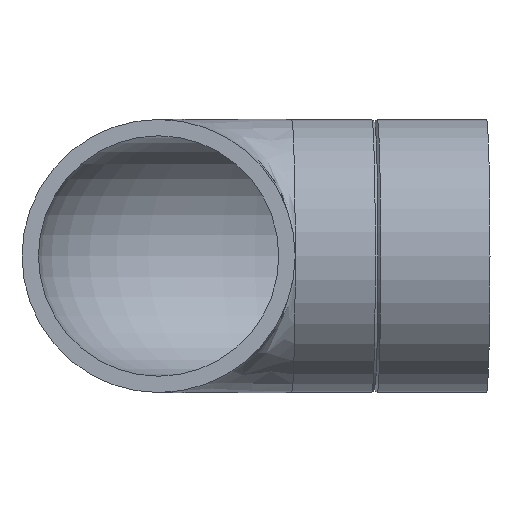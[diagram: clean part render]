
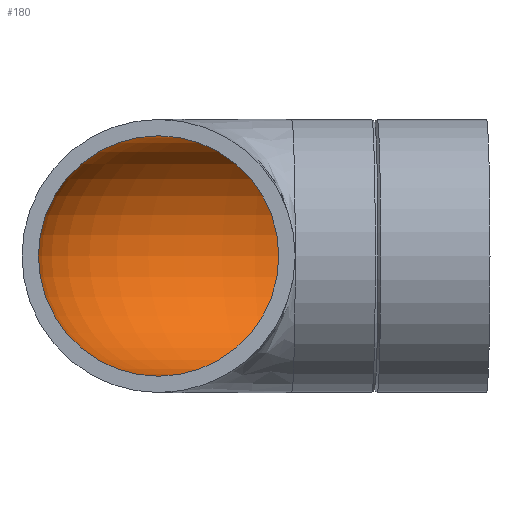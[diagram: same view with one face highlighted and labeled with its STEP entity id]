
A CAD part, front view. The second image highlights one B-rep face of the part: STEP entity #180.
In plain terms, the highlighted toroidal (fillet/blend) face has major radius 25 mm and minor radius 22 mm.
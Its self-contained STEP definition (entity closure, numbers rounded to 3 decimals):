
#14=TOROIDAL_SURFACE($,#211,25.,22.);
#34=FACE_BOUND($,#76,.T.);
#53=FACE_OUTER_BOUND($,#75,.T.);
#75=EDGE_LOOP($,(#152));
#76=EDGE_LOOP($,(#153));
#97=CIRCLE($,#208,22.);
#99=CIRCLE($,#212,22.);
#113=VERTEX_POINT($,#354);
#114=VERTEX_POINT($,#359);
#128=EDGE_CURVE($,#113,#113,#97,.T.);
#130=EDGE_CURVE($,#114,#114,#99,.T.);
#152=ORIENTED_EDGE($,*,*,#130,.T.);
#153=ORIENTED_EDGE($,*,*,#128,.F.);
#180=ADVANCED_FACE($,(#53,#34),#14,.F.);
#208=AXIS2_PLACEMENT_3D($,#355,#259,#260);
#211=AXIS2_PLACEMENT_3D($,#358,#265,#266);
#212=AXIS2_PLACEMENT_3D($,#360,#267,#268);
#259=DIRECTION('center_axis',(-1.,-0.026,0.));
#260=DIRECTION('ref_axis',(0.026,-1.,0.));
#265=DIRECTION('center_axis',(0.,0.,-1.));
#266=DIRECTION('ref_axis',(-1.,0.,0.));
#267=DIRECTION('center_axis',(0.,-1.,0.));
#268=DIRECTION('ref_axis',(1.,0.,0.));
#354=CARTESIAN_POINT('',(23.77,81.992,0.));
#355=CARTESIAN_POINT('Origin',(24.346,60.,0.));
#358=CARTESIAN_POINT('Origin',(25.,35.009,0.));
#359=CARTESIAN_POINT('',(-22.,35.009,0.));
#360=CARTESIAN_POINT('Origin',(0.,35.009,0.));
